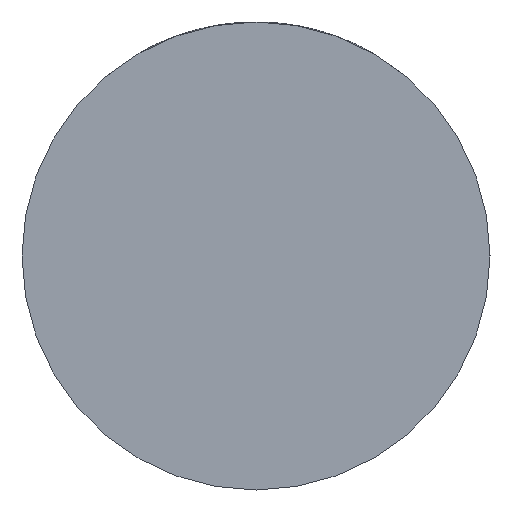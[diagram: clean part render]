
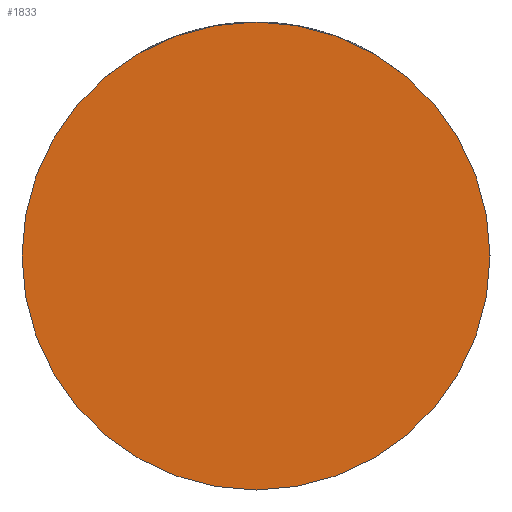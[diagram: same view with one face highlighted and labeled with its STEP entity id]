
A CAD part, front view. The second image highlights one B-rep face of the part: STEP entity #1833.
In plain terms, the highlighted planar face has unit normal (0, -1, 0).
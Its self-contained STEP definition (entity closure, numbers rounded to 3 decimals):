
#68 = CIRCLE ( 'NONE', #1081, 20. ) ;
#103 = DIRECTION ( 'NONE',  ( -1., 0., 0. ) ) ;
#124 = DIRECTION ( 'NONE',  ( 0., 1., 0. ) ) ;
#359 = DIRECTION ( 'NONE',  ( 1., 0., 0. ) ) ;
#382 = VERTEX_POINT ( 'NONE', #3422 ) ;
#455 = DIRECTION ( 'NONE',  ( 0., 1., 0. ) ) ;
#598 = CARTESIAN_POINT ( 'NONE',  ( 20., -13., 0. ) ) ;
#758 = CIRCLE ( 'NONE', #2634, 20. ) ;
#1081 = AXIS2_PLACEMENT_3D ( 'NONE', #2094, #124, #103 ) ;
#1198 = ORIENTED_EDGE ( 'NONE', *, *, #4524, .F. ) ;
#1548 = PLANE ( 'NONE',  #3640 ) ;
#1746 = VERTEX_POINT ( 'NONE', #598 ) ;
#1833 = ADVANCED_FACE ( 'NONE', ( #3986 ), #1548, .T. ) ;
#2094 = CARTESIAN_POINT ( 'NONE',  ( 0., -13., 0. ) ) ;
#2312 = ORIENTED_EDGE ( 'NONE', *, *, #2604, .F. ) ;
#2604 = EDGE_CURVE ( 'NONE', #1746, #382, #68, .T. ) ;
#2634 = AXIS2_PLACEMENT_3D ( 'NONE', #4117, #455, #2940 ) ;
#2940 = DIRECTION ( 'NONE',  ( -1., 0., 0. ) ) ;
#2956 = EDGE_LOOP ( 'NONE', ( #1198, #2312 ) ) ;
#3183 = CARTESIAN_POINT ( 'NONE',  ( 0., -13., 0. ) ) ;
#3422 = CARTESIAN_POINT ( 'NONE',  ( -20., -13., 0. ) ) ;
#3640 = AXIS2_PLACEMENT_3D ( 'NONE', #3183, #4416, #359 ) ;
#3986 = FACE_OUTER_BOUND ( 'NONE', #2956, .T. ) ;
#4117 = CARTESIAN_POINT ( 'NONE',  ( 0., -13., 0. ) ) ;
#4416 = DIRECTION ( 'NONE',  ( 0., -1., 0. ) ) ;
#4524 = EDGE_CURVE ( 'NONE', #382, #1746, #758, .T. ) ;
